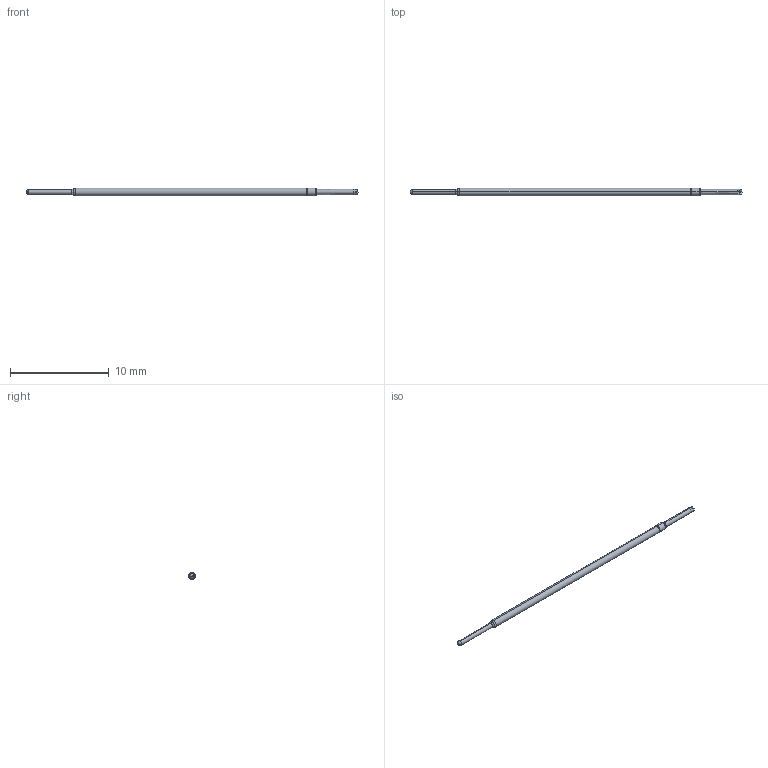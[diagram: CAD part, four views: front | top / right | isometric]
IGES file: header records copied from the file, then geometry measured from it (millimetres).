
Start section: SolidWorks IGES file using analytic representation for surfaces
Global section: file name: C:\Documents and Settings\mrumschlag\Desktop\changes\new\test\FP RECD.IGS; native system: SolidWorks 2011; preprocessor: SolidWorks 2011; author: mrumschlag; date: 110630.142733; units: inch
Bounding box: 33.69 x 0.76 x 0.76 mm (x, y, z)
Surface area: 74.3 mm2 (no closed solid volume)
Topology: 0 solids, 0 shells, 35 faces, 194 edges, 192 vertices
Faces by surface type: bspline 21, revolution 14
